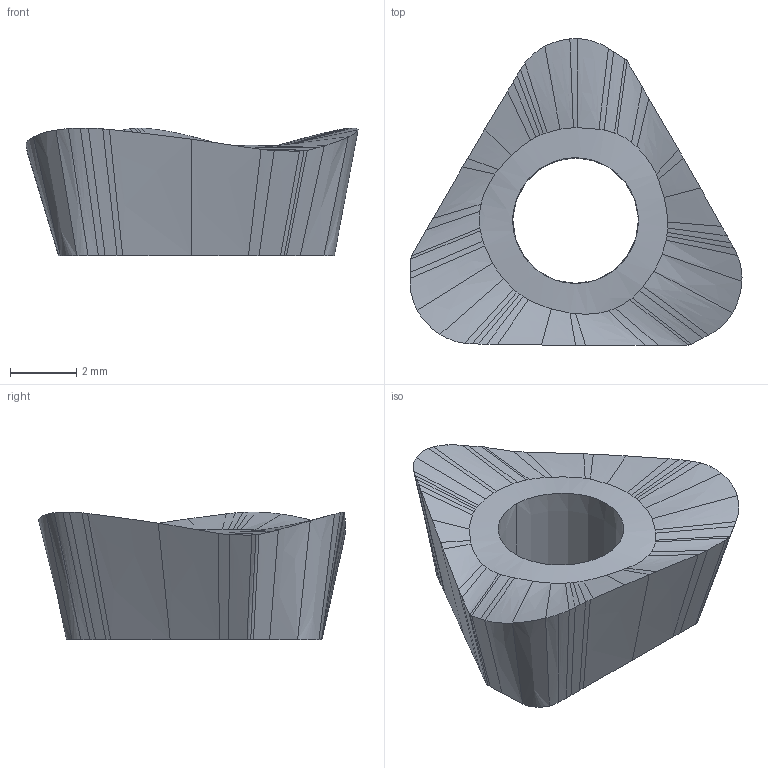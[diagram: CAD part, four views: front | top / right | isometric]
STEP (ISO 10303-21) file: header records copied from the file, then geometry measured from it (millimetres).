
FILE_DESCRIPTION(('CATIA V5 STEP','CAx-IF Rec.Pracs.--- Model Styling and Organization---1.2---2011-12-15'),'2;1');
FILE_NAME('N:\data\isr\design\special1\users\NATALY_B\Tal\NPA\5667771\HM390 TPKT 100320PDR.stp','2017-01-31T10:26:25+00:00',('none'),('none'),'CATIA Version 5 Release 21 SP 5 (IN-10)','CATIA V5 STEP AP214','none');
FILE_SCHEMA(('AUTOMOTIVE_DESIGN { 1 0 10303 214 1 1 1 1 }'));
Length unit declared in the file: millimetre
Products named in the file (1): HM390 TPKT 100320PDR
Bounding box: 10.04 x 9.27 x 3.86 mm (x, y, z)
Volume: 143.1 mm3; surface area: 228.7 mm2
Topology: 1 solids, 1 shells, 96 faces, 282 edges, 189 vertices
Faces by surface type: bspline 93, extrusion 2, plane 1
Entity records: 8038 total; most frequent: CARTESIAN_POINT 6335, ORIENTED_EDGE 498, B_SPLINE_CURVE_WITH_KNOTS 282, EDGE_CURVE 249, VERTEX_POINT 155, EDGE_LOOP 98, ADVANCED_FACE 96, FACE_OUTER_BOUND 96
